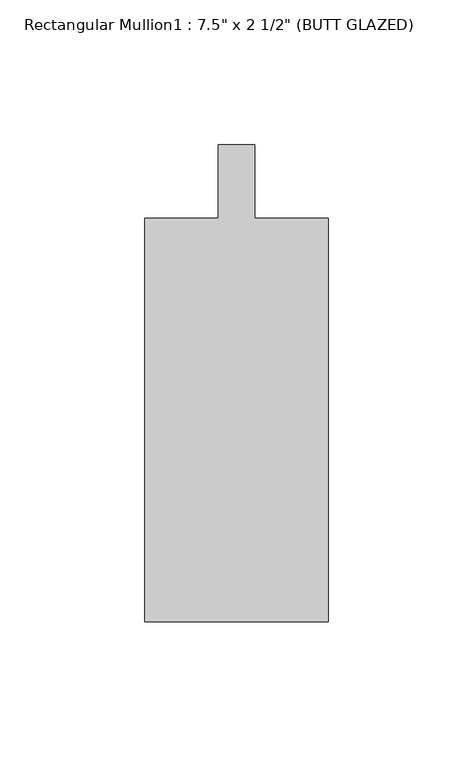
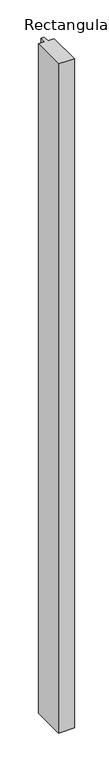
"""IFC4 building model written with IfcOpenShell, lengths in millimetres: member geometry."""

import ifcopenshell
import ifcopenshell.guid

model = None  # the IFC model being written
_history = None  # IfcOwnerHistory: only IFC2X3 demands one
_inside = {}  # id of a spatial element -> (the spatial element, [elements in it])
_under = {}  # id of a project, library or spatial element -> (it, [spatial elements below it])
_declared = {}  # id of a project -> (the project, [libraries it declares])
_typed = {}  # id of a type object -> (the type object, [elements of that type])
_made_of = {}  # id of a material, layer set ... -> (it, [elements and type objects made of it])


def new_model(schema):
    """Start an empty IFC model of exactly this schema.

    Asked for "IFC4X3", IfcOpenShell would pick the latest addendum, in which some entities
    have other attributes; the version numbers below select the first issue.
    IFC2X3 requires an IfcOwnerHistory on every rooted entity: one is made here for all.
    """
    global model, _history
    if schema == "IFC4X3":
        model = ifcopenshell.file(schema_version=(4, 3, 0, 0))
    else:
        model = ifcopenshell.file(schema=schema)
    _inside.clear()
    _under.clear()
    _declared.clear()
    _typed.clear()
    _made_of.clear()
    _history = None
    if model.schema == "IFC2X3":
        org = make("IfcOrganization", Name="unknown")
        user = make(
            "IfcPersonAndOrganization",
            ThePerson=make("IfcPerson", FamilyName="unknown"),
            TheOrganization=org,
        )
        app = make(
            "IfcApplication",
            ApplicationDeveloper=org,
            Version="unknown",
            ApplicationFullName="unknown",
            ApplicationIdentifier="unknown",
        )
        _history = make(
            "IfcOwnerHistory",
            OwningUser=user,
            OwningApplication=app,
            ChangeAction="ADDED",
            CreationDate=0,
        )
    return model


def make(cls, **values):
    """One entity of the class cls with the attributes given. An attribute that is None is left unset."""
    return model.create_entity(
        cls, **{name: value for name, value in values.items() if value is not None}
    )


def rooted(cls, **values):
    """An entity with a GlobalId (a new one), such as an element, a storey or a relation."""
    return make(cls, GlobalId=ifcopenshell.guid.new(), OwnerHistory=_history, **values)


def si_unit(unit_type, name, prefix=None):
    """IfcSIUnit, for example si_unit("LENGTHUNIT", "METRE", prefix="MILLI")."""
    return make("IfcSIUnit", UnitType=unit_type, Prefix=prefix, Name=name)


def assignment(units):
    """IfcUnitAssignment: the units of a project."""
    return None if units is None else make("IfcUnitAssignment", Units=units)


def point(xyz):
    """IfcCartesianPoint."""
    return None if xyz is None else make("IfcCartesianPoint", Coordinates=xyz)


def direction(xyz):
    """IfcDirection."""
    return None if xyz is None else make("IfcDirection", DirectionRatios=xyz)


def frame(location, z_axis=None, x_axis=None):
    """IfcAxis2Placement3D, a coordinate frame: its origin and axes. An axis left out is left unset."""
    return make(
        "IfcAxis2Placement3D",
        Location=point(location),
        Axis=direction(z_axis),
        RefDirection=direction(x_axis),
    )


def origin():
    """The frame at (0, 0, 0) with its axes left unset."""
    return frame((0.0, 0.0, 0.0))


def place(relative_to, where):
    """IfcLocalPlacement: puts the frame where relative to a parent placement (None: the world)."""
    return make(
        "IfcLocalPlacement", PlacementRelTo=relative_to, RelativePlacement=where
    )


def context(
    kind, dimensions, precision=None, world=None, true_north=None, identifier=None
):
    """IfcGeometricRepresentationContext, for example the 3D "Model" context."""
    return make(
        "IfcGeometricRepresentationContext",
        ContextIdentifier=identifier,
        ContextType=kind,
        CoordinateSpaceDimension=dimensions,
        Precision=precision,
        WorldCoordinateSystem=world,
        TrueNorth=true_north,
    )


def project(units=None, contexts=None):
    """IfcProject with its units and contexts."""
    return rooted(
        "IfcProject",
        Name="project",
        RepresentationContexts=contexts,
        UnitsInContext=assignment(units),
    )


def spatial(cls, under=None, at=None, **own):
    """A site, building, storey or space (cls), placed at a placement, below another one or the project."""
    s = rooted(cls, ObjectPlacement=at, **own)
    if under is not None:
        _under.setdefault(under.id(), (under, []))[1].append(s)
    return s


def polyline(points):
    """IfcPolyline through the points."""
    return make("IfcPolyline", Points=[point(p) for p in points])


def outline(outer, holes=None, kind="AREA"):
    """IfcArbitraryClosedProfileDef: a profile drawn as a closed curve; with holes, ...WithVoids."""
    if holes is None:
        return make("IfcArbitraryClosedProfileDef", ProfileType=kind, OuterCurve=outer)
    return make(
        "IfcArbitraryProfileDefWithVoids",
        ProfileType=kind,
        OuterCurve=outer,
        InnerCurves=holes,
    )


def extrude(swept, where, along, depth):
    """IfcExtrudedAreaSolid: the profile swept, set in the frame where, extruded along a direction by depth."""
    return make(
        "IfcExtrudedAreaSolid",
        SweptArea=swept,
        Position=where,
        ExtrudedDirection=direction(along),
        Depth=depth,
    )


def shape(context_of_items, identifier, shape_type, items):
    """IfcShapeRepresentation: the items that make up one representation, for example the "Body"."""
    return make(
        "IfcShapeRepresentation",
        ContextOfItems=context_of_items,
        RepresentationIdentifier=identifier,
        RepresentationType=shape_type,
        Items=items,
    )


def source(mapping_origin, context_of_items, identifier, shape_type, items):
    """IfcRepresentationMap: a shape defined once, which mapped items show again and again."""
    return make(
        "IfcRepresentationMap",
        MappingOrigin=mapping_origin,
        MappedRepresentation=shape(context_of_items, identifier, shape_type, items),
    )


def transform(
    local_origin,
    x_axis=None,
    y_axis=None,
    z_axis=None,
    scale=None,
    scale2=None,
    scale3=None,
    uniform=True,
):
    """IfcCartesianTransformationOperator3D, or its non-uniform kind. x_axis, y_axis, z_axis: its Axis1, 2, 3."""
    if uniform:
        return make(
            "IfcCartesianTransformationOperator3D",
            Axis1=direction(x_axis),
            Axis2=direction(y_axis),
            LocalOrigin=point(local_origin),
            Scale=scale,
            Axis3=direction(z_axis),
        )
    return make(
        "IfcCartesianTransformationOperator3DnonUniform",
        Axis1=direction(x_axis),
        Axis2=direction(y_axis),
        LocalOrigin=point(local_origin),
        Scale=scale,
        Axis3=direction(z_axis),
        Scale2=scale2,
        Scale3=scale3,
    )


def mapped(mapping_source, mapping_target):
    """IfcMappedItem: shows the shape of a source again, moved by a transform."""
    return make(
        "IfcMappedItem", MappingSource=mapping_source, MappingTarget=mapping_target
    )


def made_of(thing, what):
    """Note that an element or type object is made of a material, layer set ...; save() writes the relation."""
    if what is not None:
        _made_of.setdefault(what.id(), (what, []))[1].append(thing)
    return thing


def element(
    cls,
    number,
    at=None,
    inside=None,
    cuts=None,
    type_object=None,
    material=None,
    context=None,
    identifier="Body",
    shape_type=None,
    held_by="IfcProductDefinitionShape",
    body=None,
    shapes=None,
    **own,
):
    """One element of the class cls, such as IfcWall. Its Tag is "e" and its number.

    at: its placement. inside: the storey or other place that contains it. cuts: it is an
    opening in that element (IfcRelVoidsElement). A single representation is given by context,
    identifier, shape_type and body (its items); several are given by shapes. held_by: the class
    of the entity that holds the representations. save() writes the other relations.
    """
    e = rooted(cls, Tag="e%d" % number, ObjectPlacement=at, **own)
    if body is not None:
        shapes = [shape(context, identifier, shape_type, body)]
    if shapes is not None:
        e.Representation = make(held_by, Representations=shapes)
    if inside is not None:
        _inside.setdefault(inside.id(), (inside, []))[1].append(e)
    if cuts is not None:
        rooted(
            "IfcRelVoidsElement", RelatingBuildingElement=cuts, RelatedOpeningElement=e
        )
    if type_object is not None:
        _typed.setdefault(type_object.id(), (type_object, []))[1].append(e)
    return made_of(e, material)


def aggregate(whole, parts):
    """IfcRelAggregates: a whole, such as a stair, and the parts it consists of."""
    return rooted("IfcRelAggregates", RelatingObject=whole, RelatedObjects=parts)


def save(model, path):
    """Write the relations noted so far, then the file.

    IfcRelAggregates (storeys below a building ...), IfcRelContainedInSpatialStructure (elements
    in a storey), IfcRelDefinesByType, IfcRelAssociatesMaterial and IfcRelDeclares: one each for
    every whole, place, type object, material and project.
    """
    for whole, parts in _under.values():
        aggregate(whole, parts)
    for where, things in _inside.values():
        rooted(
            "IfcRelContainedInSpatialStructure",
            RelatedElements=things,
            RelatingStructure=where,
        )
    for kind, things in _typed.values():
        rooted("IfcRelDefinesByType", RelatedObjects=things, RelatingType=kind)
    for what, things in _made_of.values():
        rooted("IfcRelAssociatesMaterial", RelatedObjects=things, RelatingMaterial=what)
    for by, libraries in _declared.values():
        rooted("IfcRelDeclares", RelatingContext=by, RelatedDefinitions=libraries)
    model.write(path)


def member_f3ff3eb0(model_context):
    return source(origin(), model_context, "Body", "SweptSolid", [
        extrude(outline(polyline([(31.75, -165.1), (-31.75, -165.1), (-31.75, -25.4), (-6.35, -25.4), (-6.35, 0.0), (6.35, 0.0), (6.35, -25.4), (31.75, -25.4), (31.75, -165.1)])), frame((0.0, 0.0, -2832.1), z_axis=(0.0, 0.0, 1.0), x_axis=(1.0, 0.0, 0.0)), (0.0, 0.0, 1.0), 2832.1),
    ])


if __name__ == "__main__":
    model = new_model("IFC4")
    model_context = context("Model", 3, world=origin())
    ifc_project = project(units=[si_unit("LENGTHUNIT", "METRE", prefix="MILLI")], contexts=[model_context])
    site = spatial("IfcSite", under=ifc_project)
    building = spatial("IfcBuilding", under=site)
    placement = place(None, origin())
    member_shape = member_f3ff3eb0(model_context)
    element("IfcMember", 1, ObjectType="Rectangular Mullion1 : 7.5\" x 2 1/2\" (BUTT GLAZED)", at=placement, inside=building, context=model_context, shape_type="MappedRepresentation", body=[
        mapped(member_shape, transform((0.0, 0.0, 0.0), x_axis=(1.0, 0.0, 0.0), y_axis=(0.0, 1.0, 0.0), z_axis=(0.0, 0.0, 1.0))),
    ])
    save(model, "model.ifc")
